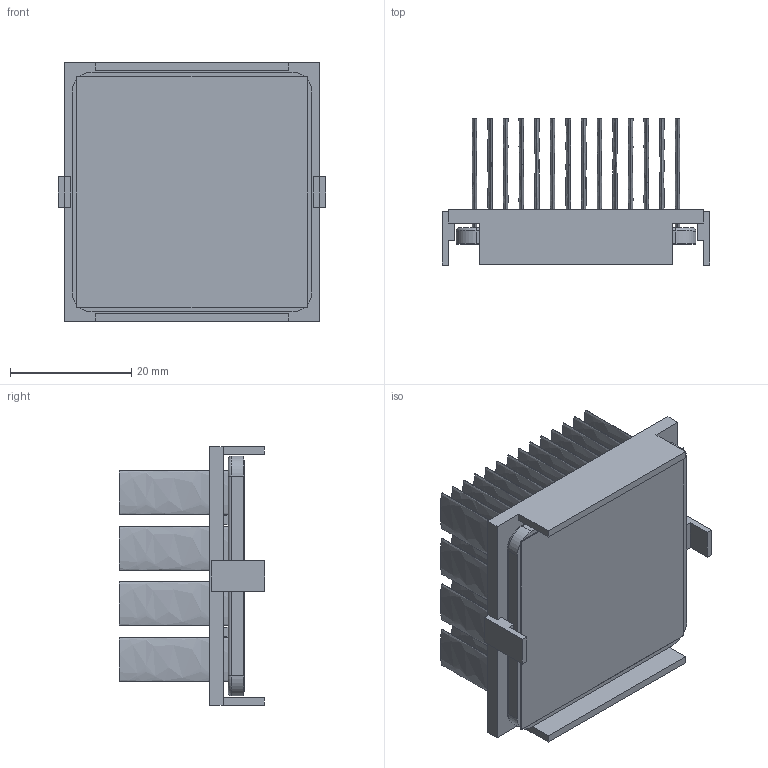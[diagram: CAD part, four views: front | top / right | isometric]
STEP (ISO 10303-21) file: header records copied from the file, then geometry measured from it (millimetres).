
FILE_DESCRIPTION (( 'STEP AP214' ), '1' );
FILE_NAME ('INM40001-21W-2.6Y.STEP', '2023-02-21T17:40:43', ( '' ), ( '' ), 'SwSTEP 2.0', 'SolidWorks 2020', '' );
FILE_SCHEMA (( 'AUTOMOTIVE_DESIGN' ));
Length unit declared in the file: inch
Products named in the file (1): INM40001-21W-2.6Y
Bounding box: 44.2 x 24.1 x 42.7 mm (x, y, z)
Volume: 10855.7 mm3; surface area: 24322.5 mm2
Topology: 3 solids, 3 shells, 250 faces, 556 edges, 368 vertices
Faces by surface type: plane 126, bspline 112, cylinder 8, torus 4
Entity records: 10428 total; most frequent: CARTESIAN_POINT 2631, ORIENTED_EDGE 1112, DIRECTION 630, EDGE_CURVE 556, VERTEX_POINT 368, LINE 312, VECTOR 312, EDGE_LOOP 308
